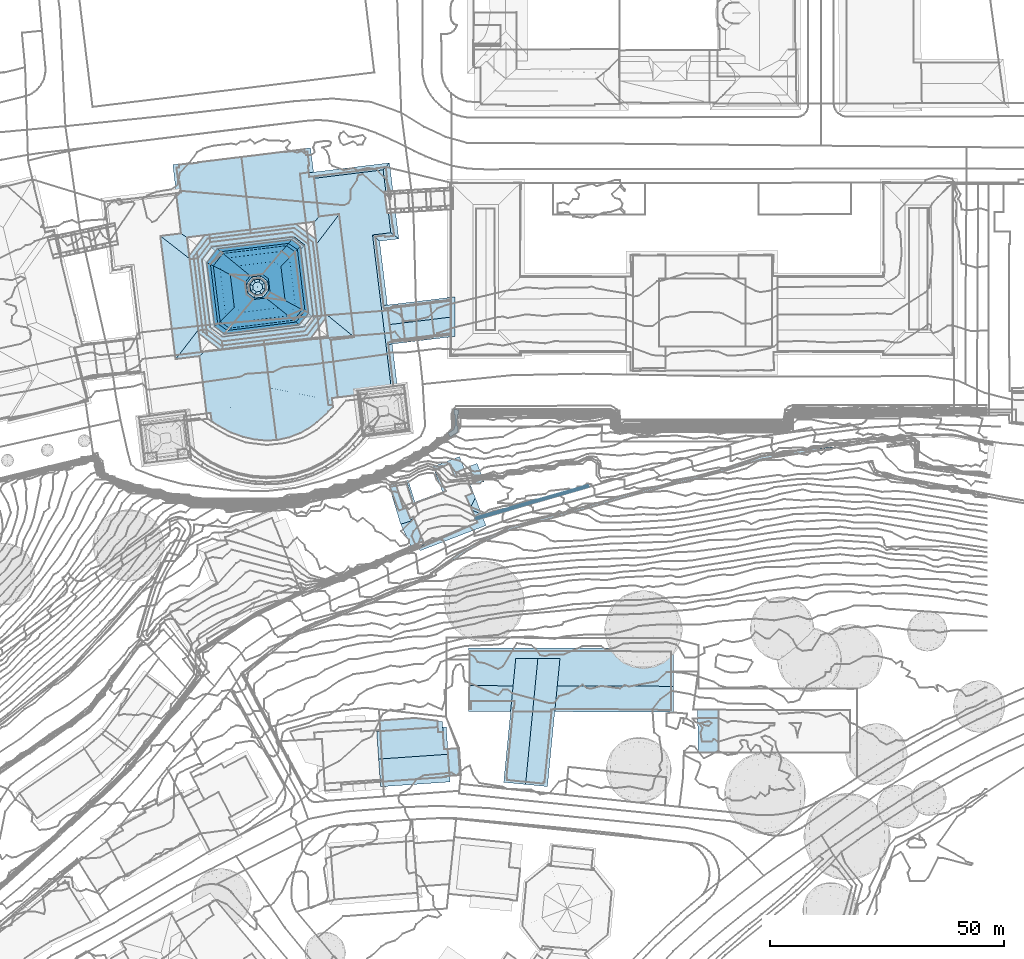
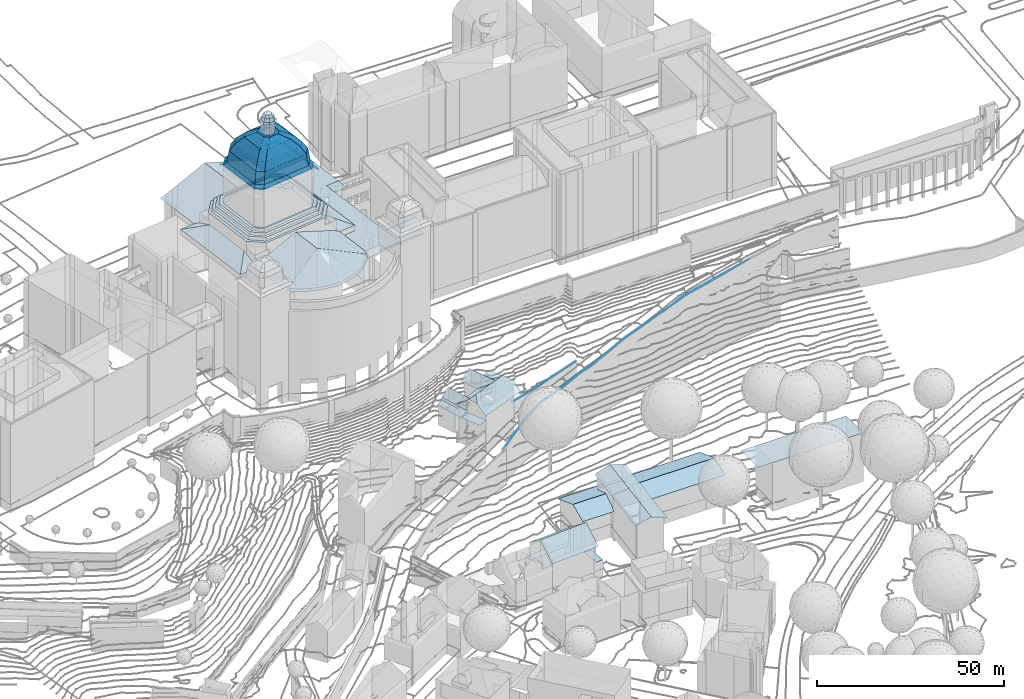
# Not in any storey, part 85 of 477: 22 roofs.
"""IFC4 building model written with IfcOpenShell, lengths in metres."""

from ifc_helpers import new_model, si_unit, frame, origin_with_axes, place, context, subcontext, project, spatial, polygons, element, save


model = new_model("IFC4")

# Units and contexts
model_context = context("Model", 3, precision=1e-05, world=origin_with_axes())
body_context = subcontext(model_context, "Body", "Model", "MODEL_VIEW")
ifc_project = project(units=[si_unit("AREAUNIT", "SQUARE_METRE"), si_unit("LENGTHUNIT", "METRE")], contexts=[model_context])

# Sites, building
site_1_placement = place(None, origin_with_axes())
site_1 = spatial("IfcSite", under=ifc_project, at=site_1_placement, Name="Topoexport Site")
site_2_placement = place(site_1_placement, origin_with_axes())
site_2 = spatial("IfcSite", under=site_1, at=site_2_placement, Name="TPX_BUILDINGS")
building_1_placement = place(site_2_placement, frame((211.8297320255, 101.9383160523, 526.7541), z_axis=(0.0, 0.0, 1.0), x_axis=(1.0, 0.0, 0.0)))
building_1 = spatial("IfcBuilding", under=site_2, at=building_1_placement, Name="Building 18", CompositionType="ELEMENT")

# Roofs
roof_1_placement = place(None, frame((211.8297320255, 101.9383160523, 526.7541), z_axis=(0.0, 0.0, 1.0), x_axis=(1.0, 0.0, 0.0)))
element("IfcRoof", 1, at=roof_1_placement, inside=building_1, Name="Roof 2", context=body_context, shape_type="Tessellation", body=[
    polygons([(362.3150000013, 254.9765000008, 13.5627), (363.2410000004, 254.4589999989, 13.5627), (361.5580000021, 253.379900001, 13.5627), (363.2630000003, 255.6416000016, 13.5627), (363.0109999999, 255.754900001, 13.5627), (361.0960000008, 254.1953000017, 13.5627), (362.5670000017, 255.7236000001, 13.5627), (362.5810000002, 258.2802999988, 13.5627), (363.3300000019, 259.2012000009, 13.5627), (363.313000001, 258.2626999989, 13.5627), (363.1009999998, 258.2637000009, 13.5627), (362.3949999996, 259.2186999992, 13.5627), (362.3780000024, 258.3046999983, 13.5627)], [[[3, 2, 1]], [[5, 1, 4]], [[3, 1, 6]], [[7, 1, 5]], [[7, 5, 8]], [[1, 2, 4]], [[11, 10, 9]], [[11, 8, 5]], [[13, 8, 12]], [[9, 12, 8]], [[8, 11, 9]]]),
])
roof_2_placement = place(None, frame((211.8297320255, 101.9383160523, 526.7541), z_axis=(0.0, 0.0, 1.0), x_axis=(1.0, 0.0, 0.0)))
element("IfcRoof", 2, at=roof_2_placement, inside=building_1, Name="Roof 75", context=body_context, shape_type="Tessellation", body=[
    polygons([(376.1530000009, 238.4004000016, -4.0406), (391.1020000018, 243.1074000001, -3.1507), (391.2110000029, 242.7285000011, -3.1507), (376.0439999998, 238.7793000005, -4.0406), (367.1540000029, 235.7831999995, -4.0406), (366.9900000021, 236.1473999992, -4.0406)], [[[3, 2, 1]], [[5, 1, 4]], [[5, 4, 6]], [[2, 4, 1]]]),
])
roof_3_placement = place(None, frame((211.8297320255, 101.9383160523, 526.7541), z_axis=(0.0, 0.0, 1.0), x_axis=(1.0, 0.0, 0.0)))
element("IfcRoof", 3, at=roof_3_placement, inside=building_1, Name="Roof 84", context=body_context, shape_type="Tessellation", body=[
    polygons([(420.2829999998, 246.1229999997, 0.96), (419.3350000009, 245.8231999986, 0.96), (419.2030000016, 246.2578000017, 0.96), (420.126000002, 246.566399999, 0.96), (398.893000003, 240.4354999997, -2.3187), (393.5760000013, 238.8729999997, -3.2437), (393.450000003, 239.3104999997, -3.2437), (398.756000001, 240.9004000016, -2.3197), (436.8360000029, 249.9111000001, 2.4808), (436.7320000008, 250.5683000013, 2.4808), (449.8500000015, 251.9706999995, 4.0297), (389.7030000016, 237.7754000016, -3.4067), (389.574000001, 238.2430999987, -3.4067), (383.9270000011, 236.6893999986, -4.6596), (384.068, 236.1963, -4.6586), (374.5850000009, 233.6180999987, -5.7495), (374.4420000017, 234.0780999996, -5.7465), (368.0720000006, 231.1268999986, -7.3483), (368.4070000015, 230.8134999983, -7.3163), (364.1030000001, 228.8671999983, -8.2442), (364.5199999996, 228.5967000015, -8.2052), (357.5240000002, 224.2617000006, -9.1681), (405.756000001, 242.2626999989, -0.6429), (405.6400000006, 242.7030999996, -0.6429), (427.9169999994, 249.1737999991, 1.7199), (428.0439999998, 248.5469000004, 1.7179)], [[[3, 2, 1]], [[1, 4, 3]], [[7, 6, 5]], [[5, 8, 7]], [[11, 10, 9]], [[13, 12, 7]], [[6, 7, 12]], [[12, 13, 14]], [[14, 15, 12]], [[15, 17, 16]], [[17, 15, 14]], [[17, 18, 16]], [[16, 18, 19]], [[20, 19, 18]], [[19, 20, 21]], [[22, 21, 20]], [[24, 23, 3]], [[2, 3, 23]], [[4, 1, 25]], [[26, 25, 1]], [[23, 24, 5]], [[8, 5, 24]], [[9, 10, 25]], [[25, 26, 9]]]),
])

# Building
building_2_placement = place(site_2_placement, frame((577.4937320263, 297.2000160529, 499.3887), z_axis=(0.0, 0.0, 1.0), x_axis=(1.0, 0.0, 0.0)))
building_2 = spatial("IfcBuilding", under=site_2, at=building_2_placement, Name="Building 173", CompositionType="ELEMENT")

# Roofs
roof_4_placement = place(None, frame((577.4937320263, 297.2000160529, 499.3887), z_axis=(0.0, 0.0, 1.0), x_axis=(1.0, 0.0, 0.0)))
element("IfcRoof", 4, at=roof_4_placement, inside=building_2, Name="Roof 0", context=body_context, shape_type="Tessellation", body=[
    polygons([(9.4110000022, 0.1532999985, 10.112), (-0.2349999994, -0.509800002, 9.822), (-0.2179999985, 4.996100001, 12.1268), (10.0470000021, 4.9638999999, 12.1268), (9.5709999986, 0.1376999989, 10.106), (9.3420000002, -0.5390999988, 9.822), (10.626000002, 10.8213, 9.9), (-0.193, 13.0830000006, 9.0531), (18.4220000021, 10.7685999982, 9.911), (43.6359999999, 12.9472999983, 9.0532), (43.6110000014, 4.8603999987, 12.1269), (43.1669999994, 4.8612999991, 12.1269), (17.9160000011, 4.9395000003, 12.1268), (43.5940000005, -0.6445000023, 9.8221), (17.5930000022, -0.5644000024, 9.822), (17.5989999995, -0.5019000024, 9.848), (17.4450000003, -0.4873000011, 9.854)], [[[3, 2, 1]], [[1, 4, 3]], [[4, 1, 5]], [[6, 1, 2]], [[3, 4, 7]], [[8, 3, 7]], [[8, 7, 9]], [[12, 11, 10]], [[12, 9, 13]], [[9, 12, 10]], [[9, 10, 8]], [[16, 15, 14]], [[17, 16, 14]], [[14, 11, 12]], [[13, 17, 12]], [[12, 17, 14]]]),
])
roof_5_placement = place(None, frame((577.4937320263, 297.2000160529, 499.3887), z_axis=(0.0, 0.0, 1.0), x_axis=(1.0, 0.0, 0.0)))
element("IfcRoof", 5, at=roof_5_placement, inside=building_2, Name="Roof 1", context=body_context, shape_type="Tessellation", body=[
    polygons([(14.6279999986, 10.7949000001, 16.4804), (11.9970000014, -16.1094000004, 16.4803), (7.319000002, -15.6523000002, 14.9435), (9.0139999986, 1.6796999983, 14.9435), (9.9090000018, 10.8271999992, 14.9435), (18.2879999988, -0.0615000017, 14.9435), (19.3460000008, 10.7626999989, 14.9435), (16.6739999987, -16.566399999, 14.9435)], [[[3, 2, 1]], [[3, 1, 4]], [[4, 1, 5]], [[7, 1, 6]], [[1, 2, 8]], [[1, 8, 6]]]),
])

# Building
building_3_placement = place(site_2_placement, frame((630.7837320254, 287.8680160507, 499.1767), z_axis=(0.0, 0.0, 1.0), x_axis=(1.0, 0.0, 0.0)))
building_3 = spatial("IfcBuilding", under=site_2, at=building_3_placement, Name="Building 174", CompositionType="ELEMENT")

# Roof
roof_6_placement = place(None, frame((630.7837320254, 287.8680160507, 499.1767), z_axis=(0.0, 0.0, 1.0), x_axis=(1.0, 0.0, 0.0)))
element("IfcRoof", 6, at=roof_6_placement, inside=building_3, Name="Roof 0", context=body_context, shape_type="Tessellation", body=[
    polygons([(-4.4780000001, 0.0058000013, 15.9245), (-4.5159999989, 9.1406000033, 15.9245), (0.0, 9.1308000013, 15.9245), (0.0, 0.0, 15.9245), (28.0600000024, 9.0703000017, 15.9245), (28.0730000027, -0.0409999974, 15.9245)], [[[3, 2, 1]], [[3, 1, 4]], [[4, 5, 3]], [[5, 4, 6]]]),
])

# Building
building_4_placement = place(site_2_placement, frame((560.434732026, 345.1033160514, 517.399), z_axis=(0.0, 0.0, 1.0), x_axis=(1.0, 0.0, 0.0)))
building_4 = spatial("IfcBuilding", under=site_2, at=building_4_placement, Name="Building 181", CompositionType="ELEMENT")

# Roofs
roof_7_placement = place(None, frame((560.434732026, 345.1033160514, 517.399), z_axis=(0.0, 0.0, 1.0), x_axis=(1.0, 0.0, 0.0)))
element("IfcRoof", 7, at=roof_7_placement, inside=building_4, Name="Roof 0", context=body_context, shape_type="Tessellation", body=[
    polygons([(4.8540000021, -13.8827999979, 6.5474), (2.7160000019, -8.3085999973, 6.5544), (6.7430000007, -10.8007999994, 6.6113), (2.7050000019, -8.2694999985, 6.5544), (5.125, -7.186499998, 6.6114), (2.4020000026, -8.4043000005, 6.5484), (7.5769999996, -12.6649999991, 6.6113), (7.4589999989, -12.6279000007, 6.6093), (7.5450000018, -12.5927000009, 6.6113), (2.1620000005, 0.3965000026, 8.0182), (1.3770000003, 0.2520000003, 7.5223), (2.1079999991, 0.5713, 8.0182), (-0.2509999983, 0.1455000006, 6.5294), (3.0350000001, -5.1512999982, 7.5223), (3.5920000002, -4.9266999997, 7.8962), (4.4550000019, -7.0673999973, 8.0182), (2.2320000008, -2.5331999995, 7.5233), (4.6480000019, -7.7168000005, 8.0182), (2.3720000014, -8.4140000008, 6.5294)], [[[3, 2, 1]], [[2, 5, 4]], [[5, 2, 3]], [[2, 6, 1]], [[8, 1, 7]], [[1, 8, 3]], [[7, 9, 8]], [[12, 11, 10]], [[11, 12, 13]], [[16, 15, 14]], [[11, 13, 17]], [[14, 17, 13]], [[14, 13, 6]], [[16, 14, 18]], [[14, 6, 18]], [[6, 13, 19]]]),
])
roof_8_placement = place(None, frame((560.434732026, 345.1033160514, 517.399), z_axis=(0.0, 0.0, 1.0), x_axis=(1.0, 0.0, 0.0)))
element("IfcRoof", 8, at=roof_8_placement, inside=building_4, Name="Roof 1", context=body_context, shape_type="Tessellation", body=[
    polygons([(14.9550000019, 6.0401000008, 8.7212), (12.5839999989, 4.3496000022, 11.1699), (12.3229999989, 5.0313000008, 11.1699), (15.9299999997, 3.4951000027, 8.7212), (16.9849999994, 0.7432000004, 8.7212), (16.2719999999, -2.4794999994, 10.302), (15.618999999, -3.5682999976, 11.1699), (17.9710000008, -1.8290999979, 10.302), (11.5520000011, -1.5975999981, 8.8591), (14.2540000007, -3.253899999, 10.302), (9.2630000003, 3.8594000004, 8.7212), (11.2930000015, -1.4384999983, 8.7212), (5.5340000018, -6.5956999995, 10.302), (3.8850000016, -7.2274999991, 10.302), (3.2430000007, -4.5233999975, 8.7212), (2.8990000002, -4.6552999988, 8.7212), (6.2360000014, -9.5097000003, 13.3367), (4.4340000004, -8.6611000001, 12.0058), (6.1539999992, -9.2997999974, 13.3487), (6.2970000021, -9.3524999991, 13.4607), (5.4970000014, -11.4335999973, 11.8199), (17.6810000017, -5.4452999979, 13.0397), (17.1110000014, -5.2089999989, 13.4607), (6.5140000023, -14.0878999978, 9.0051), (19.6750000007, -6.2753999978, 11.5649), (20.6000000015, -8.6884999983, 9.0051), (18.3370000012, -2.7841999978, 11.4379), (17.3570000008, -4.7225999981, 13.0557), (6.2300000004, -6.3290999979, 10.302), (6.1380000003, -6.0282999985, 10.122), (5.0749999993, -4.1611000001, 8.9031), (4.9780000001, -3.8583999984, 8.7212), (5.512000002, -3.9882999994, 8.9001), (17.2880000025, -0.0469000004, 8.7212), (17.2180000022, 0.1367000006, 8.7212), (20.2050000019, 0.6689999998, 8.5452), (17.1099999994, 0.4169999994, 8.7212), (18.7070000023, 4.5771999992, 8.5452), (1.3770000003, 0.2520000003, 8.3382), (1.3229999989, 0.4297000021, 8.3382), (3.0560000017, -4.5956999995, 8.5212), (2.8990000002, -4.6552999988, 8.3542), (3.0350000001, -5.1512999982, 8.3382), (3.0820000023, -5.1327999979, 8.3892), (3.6090000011, 0.8428000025, 10.642), (3.4739999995, -4.9745999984, 8.8102), (3.8920000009, -7.9472000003, 8.3382), (4.4719999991, -7.1083999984, 9.1381), (5.438000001, -7.4745999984, 9.953), (3.6900000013, -5.1688999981, 8.9591), (5.9420000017, -6.7675999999, 10.642), (5.1830000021, -6.8231999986, 9.9), (5.512000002, -3.9882999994, 10.322), (4.0089999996, 0.9141000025, 10.322), (6.2349999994, -6.3456999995, 10.322), (1.9649999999, -1.6649999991, 8.2882), (1.9649999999, -1.6649999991, 8.1882), (1.3770000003, 0.2520000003, 8.1382), (1.3229999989, 0.4297000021, 8.1382)], [[[3, 2, 1]], [[4, 1, 2]], [[2, 5, 4]], [[6, 5, 2]], [[6, 2, 7]], [[6, 8, 5]], [[10, 2, 9]], [[2, 10, 7]], [[2, 3, 11]], [[12, 9, 11]], [[11, 9, 2]], [[15, 14, 13]], [[14, 15, 16]], [[19, 18, 17]], [[17, 20, 19]], [[21, 17, 18]], [[17, 21, 22]], [[23, 20, 17]], [[22, 21, 24]], [[26, 25, 22]], [[23, 17, 22]], [[22, 24, 26]], [[22, 25, 27]], [[22, 28, 23]], [[28, 22, 27]], [[30, 29, 10]], [[33, 32, 31]], [[30, 9, 33]], [[9, 30, 10]], [[9, 12, 33]], [[33, 12, 32]], [[36, 35, 34]], [[35, 36, 37]], [[36, 5, 37]], [[38, 5, 36]], [[4, 5, 38]], [[15, 40, 39]], [[39, 42, 41]], [[44, 42, 43]], [[39, 43, 42]], [[40, 15, 45]], [[13, 45, 15]], [[39, 41, 15]], [[44, 47, 46]], [[47, 44, 43]], [[47, 48, 46]], [[48, 47, 49]], [[48, 50, 46]], [[45, 13, 51]], [[52, 48, 49]], [[54, 51, 53]], [[51, 54, 45]], [[51, 55, 53]], [[51, 18, 7]], [[18, 19, 28]], [[55, 51, 10]], [[18, 51, 14]], [[13, 14, 51]], [[23, 19, 20]], [[18, 28, 7]], [[7, 10, 51]], [[28, 27, 7]], [[7, 27, 8]], [[29, 55, 10]], [[8, 6, 7]], [[28, 19, 23]], [[39, 40, 56]], [[59, 58, 57]]]),
])

# Building
building_5_placement = place(site_2_placement, frame((558.3647320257, 294.6795160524, 500.6956), z_axis=(0.0, 0.0, 1.0), x_axis=(1.0, 0.0, 0.0)))
building_5 = spatial("IfcBuilding", under=site_2, at=building_5_placement, Name="Building 182", CompositionType="ELEMENT")

# Roofs
roof_9_placement = place(None, frame((558.3647320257, 294.6795160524, 500.6956), z_axis=(0.0, 0.0, 1.0), x_axis=(1.0, 0.0, 0.0)))
element("IfcRoof", 9, at=roof_9_placement, inside=building_5, Name="Roof 0", context=body_context, shape_type="Tessellation", body=[
    polygons([(0.1280000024, -2.2402000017, 11.0869), (-0.2630000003, -8.1689999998, 15.3915), (-0.6689999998, -2.2949000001, 11.0969), (0.4480000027, -7.8300999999, 15.1715), (12.4130000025, -1.3887000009, 10.9349), (14.1900000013, -1.2655999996, 10.9129), (12.4620000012, -2.0907999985, 11.4478), (0.4640000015, -8.1191000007, 15.3915), (14.5970000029, -7.1405999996, 15.3914), (14.5219999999, -6.0546999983, 14.5635), (12.2750000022, -12.1807000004, 11.7138), (14.9180000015, -11.7870999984, 11.8728), (15.006000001, -13.0546999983, 10.9129), (0.4810000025, -8.4072000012, 15.1735), (0.1469999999, -14.0839999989, 11.0969)], [[[3, 2, 1]], [[1, 2, 4]], [[7, 6, 5]], [[1, 4, 5]], [[5, 4, 7]], [[2, 8, 4]], [[4, 8, 9]], [[10, 7, 4]], [[6, 7, 10]], [[10, 4, 9]], [[12, 9, 11]], [[13, 12, 11]], [[8, 2, 14]], [[11, 9, 14]], [[14, 9, 8]], [[2, 15, 14]], [[11, 14, 15]], [[13, 11, 15]]]),
])
roof_10_placement = place(None, frame((558.3647320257, 294.6795160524, 500.6956), z_axis=(0.0, 0.0, 1.0), x_axis=(1.0, 0.0, 0.0)))
element("IfcRoof", 10, at=roof_10_placement, inside=building_5, Name="Roof 1", context=body_context, shape_type="Tessellation", body=[
    polygons([(14.5219999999, -6.0546999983, 4.9954), (17.1530000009, -11.6328000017, 4.9954), (14.9180000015, -11.7870999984, 4.9954), (16.756000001, -5.8993999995, 4.9954)], [[[3, 2, 1]], [[4, 1, 2]]]),
])
roof_11_placement = place(None, frame((558.3647320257, 294.6795160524, 500.6956), z_axis=(0.0, 0.0, 1.0), x_axis=(1.0, 0.0, 0.0)))
element("IfcRoof", 11, at=roof_11_placement, inside=building_5, Name="Roof 2", context=body_context, shape_type="Tessellation", body=[
    polygons([(12.4130000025, -1.3887000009, 4.9954), (13.4970000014, -2.4072000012, 4.9954), (12.4890000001, -2.4765999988, 4.9954), (7.438000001, 0.5722999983, 4.9955), (0.1280000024, -2.2402000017, 4.9955), (0.0, 0.0, 4.9955), (13.3420000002, -0.1719000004, 4.9954)], [[[3, 2, 1]], [[6, 5, 4]], [[4, 5, 1]], [[1, 7, 4]], [[1, 2, 7]]]),
])

# Building
building_6_placement = place(site_2_placement, frame((516.5377320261, 359.7107160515, 536.6602), z_axis=(0.0, 0.0, 1.0), x_axis=(1.0, 0.0, 0.0)))
building_6 = spatial("IfcBuilding", under=site_2, at=building_6_placement, Name="Building 193", CompositionType="ELEMENT")

# Roofs
roof_12_placement = place(None, frame((516.5377320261, 359.7107160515, 536.6602), z_axis=(0.0, 0.0, 1.0), x_axis=(1.0, 0.0, 0.0)))
element("IfcRoof", 12, at=roof_12_placement, inside=building_6, Name="Roof 4", context=body_context, shape_type="Tessellation", body=[
    polygons([(4.8489999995, 32.8896999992, 38.1686), (6.5350000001, 19.1534000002, 38.1684), (5.631000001, 19.0303000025, 38.1684), (8.2750000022, 17.0118000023, 38.1684), (8.5899999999, 17.5850000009, 38.1684), (24.6799999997, 19.5595999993, 38.1684), (5.9479999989, 36.2138999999, 38.1686), (3.8579999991, 33.4747000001, 38.1686), (23.0800000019, 38.317400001, 38.1686), (7.0850000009, 35.8203999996, 38.1686), (26.6130000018, 22.0928000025, 38.1684), (25.626000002, 19.1416000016, 38.1684), (25.7950000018, 36.2442000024, 38.1685), (27.5800000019, 21.7032000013, 38.1684), (22.9670000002, 37.7686000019, 38.1686), (24.8660000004, 36.3203999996, 38.1685)], [[[3, 2, 1]], [[2, 3, 4]], [[4, 5, 2]], [[5, 4, 6]], [[8, 1, 7]], [[1, 8, 3]], [[7, 10, 9]], [[10, 7, 1]], [[6, 12, 11]], [[12, 6, 4]], [[11, 14, 13]], [[14, 11, 12]], [[15, 9, 10]], [[9, 15, 16]], [[16, 13, 9]], [[13, 16, 11]]]),
])
roof_13_placement = place(None, frame((516.5377320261, 359.7107160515, 536.6602), z_axis=(0.0, 0.0, 1.0), x_axis=(1.0, 0.0, 0.0)))
element("IfcRoof", 13, at=roof_13_placement, inside=building_6, Name="Roof 14", context=body_context, shape_type="Tessellation", body=[
    polygons([(56.9710000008, 17.7344000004, 20.867), (57.9140000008, 21.3340000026, 22.0059), (57.8960000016, 17.8456999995, 20.867), (44.3670000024, 16.2041000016, 20.867), (43.9470000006, 19.6387000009, 22.0059), (56.9820000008, 24.6612000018, 20.867), (57.9310000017, 24.7763999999, 20.867), (43.5329999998, 23.0293000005, 20.867)], [[[3, 2, 1]], [[1, 5, 4]], [[5, 1, 2]], [[7, 6, 2]], [[2, 8, 5]], [[8, 2, 6]]]),
])
roof_14_placement = place(None, frame((516.5377320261, 359.7107160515, 536.6602), z_axis=(0.0, 0.0, 1.0), x_axis=(1.0, 0.0, 0.0)))
element("IfcRoof", 14, at=roof_14_placement, inside=building_6, Name="Roof 15", context=body_context, shape_type="Tessellation", body=[
    polygons([(42.693, 23.192400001, 19.1572), (43.5219999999, 23.1152999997, 19.1572), (42.7280000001, 23.0206000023, 19.1572), (42.6409999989, 23.5381000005, 19.1572), (42.620000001, 23.7120000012, 19.1572), (42.6649999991, 23.3652999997, 19.1572), (56.9820000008, 24.6612000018, 19.1572), (43.6130000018, 15.7763999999, 19.1572), (44.4079999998, 15.8731000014, 19.1572), (43.6620000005, 15.375, 19.1572), (56.9710000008, 17.7344000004, 19.1572), (44.3670000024, 16.2041000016, 19.1572), (57.8929999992, 17.1016000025, 19.1572), (56.9739999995, 19.4659000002, 19.1572), (57.9340000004, 25.5703999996, 19.1572), (43.5329999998, 23.0293000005, 19.1572)], [[[3, 2, 1]], [[5, 4, 2]], [[1, 2, 6]], [[4, 6, 2]], [[5, 2, 7]], [[10, 9, 8]], [[12, 9, 11]], [[10, 13, 9]], [[14, 11, 13]], [[7, 14, 13]], [[15, 7, 13]], [[15, 5, 7]], [[16, 7, 2]], [[11, 9, 13]]]),
])
roof_15_placement = place(None, frame((516.5377320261, 359.7107160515, 536.6602), z_axis=(0.0, 0.0, 1.0), x_axis=(1.0, 0.0, 0.0)))
element("IfcRoof", 15, at=roof_15_placement, inside=building_6, Name="Roof 32", context=body_context, shape_type="Tessellation", body=[
    polygons([(33.1590000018, 43.2109999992, 27.8075), (28.8269999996, 42.6788000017, 27.8075), (27.8200000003, 50.884800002, 27.8076), (42.5289999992, 52.6845999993, 27.8076), (44.1720000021, 39.2578999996, 27.8075), (40.254999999, 38.7784000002, 27.8075), (36.3880000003, 16.9072999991, 27.8073), (44.2270000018, 6.3330000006, 27.8073), (31.3709999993, 16.2910999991, 27.8073), (37.0379999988, 5.4405000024, 27.8073), (32.875, 4.0362000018, 27.8073), (37.1460000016, 4.5595999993, 27.8073), (43.887000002, 54.188500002, 25.8257), (45.875, 37.9532000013, 25.8257), (44.9279999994, 38.6788000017, 26.9276), (43.0219999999, 53.2314999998, 27.0886), (40.9059999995, 38.2061000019, 26.9536), (41.7670000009, 37.4502000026, 25.8257), (43.5219999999, 23.1152999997, 25.8255), (45.5560000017, 6.4981000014, 25.8255), (44.4079999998, 15.8731000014, 25.8255), (26.7329999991, 51.5362000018, 26.6457), (26.6680000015, 52.0811000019, 25.8258), (27.7730000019, 51.2646999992, 27.2356), (26.7800000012, 51.1425999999, 27.2356)], [[[3, 2, 1]], [[3, 1, 4]], [[4, 6, 5]], [[4, 1, 6]], [[8, 6, 7]], [[1, 7, 6]], [[11, 10, 9]], [[11, 12, 10]], [[8, 7, 10]], [[10, 7, 9]], [[15, 14, 13]], [[5, 15, 16]], [[5, 16, 4]], [[16, 15, 13]], [[5, 6, 17]], [[15, 17, 18]], [[17, 15, 5]], [[15, 18, 14]], [[17, 19, 18]], [[19, 17, 6]], [[21, 8, 20]], [[8, 21, 19]], [[8, 19, 6]], [[13, 23, 22]], [[25, 24, 22]], [[24, 3, 4]], [[16, 22, 24]], [[13, 22, 16]], [[24, 4, 16]]]),
])
roof_16_placement = place(None, frame((516.5377320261, 359.7107160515, 536.6602), z_axis=(0.0, 0.0, 1.0), x_axis=(1.0, 0.0, 0.0)))
element("IfcRoof", 16, at=roof_16_placement, inside=building_6, Name="Roof 33", context=body_context, shape_type="Tessellation", body=[
    polygons([(29.4820000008, 21.4659000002, 35.4726), (27.5560000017, 37.1543000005, 35.4728), (28.2190000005, 37.7872000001, 35.4728), (23.5199999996, 40.2344000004, 35.4728), (23.9090000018, 41.0762000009, 35.4728), (5.0210000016, 37.9629000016, 35.4728), (26.3460000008, 17.3575000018, 35.4726), (30.2879999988, 20.9327000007, 35.4726), (7.5659999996, 14.2666000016, 35.4726), (27.0240000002, 16.6563000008, 35.4726), (1.1339999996, 34.3720999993, 35.4728), (4.425999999, 38.6845999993, 35.4728), (3.1920000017, 17.6044999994, 35.4726), (2.0830000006, 34.1143000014, 35.4728), (7.9160000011, 15.0938000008, 35.4726), (4.0560000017, 18.0401000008, 35.4726)], [[[3, 2, 1]], [[2, 3, 4]], [[5, 4, 3]], [[4, 5, 6]], [[8, 1, 7]], [[1, 8, 3]], [[10, 7, 9]], [[7, 10, 8]], [[6, 12, 11]], [[12, 6, 5]], [[14, 11, 13]], [[11, 14, 6]], [[15, 9, 7]], [[9, 15, 16]], [[16, 13, 9]], [[13, 16, 14]]]),
])
roof_17_placement = place(None, frame((516.5377320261, 359.7107160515, 536.6602), z_axis=(0.0, 0.0, 1.0), x_axis=(1.0, 0.0, 0.0)))
element("IfcRoof", 17, at=roof_17_placement, inside=building_6, Name="Roof 34", context=body_context, shape_type="Tessellation", body=[
    polygons([(24.6799999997, 19.5595999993, 50.4772), (23.9110000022, 20.1739000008, 51.3721), (26.6130000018, 22.0928000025, 50.4772), (25.8280000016, 22.5108000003, 51.3721), (21.5820000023, 24.7675999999, 59.5223), (23.7760000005, 23.6006000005, 57.3355), (20.1339999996, 23.1933999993, 59.5223), (22.2589999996, 21.4942000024, 57.3355), (17.4979999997, 25.2998000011, 61.0132), (12.4719999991, 22.2520000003, 59.5223), (14.7230000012, 24.9600000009, 61.0132), (18.387000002, 26.4649000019, 61.0132), (22.506000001, 33.9414000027, 57.3357), (20.876000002, 35.2813000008, 57.3357), (23.7060000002, 35.1504000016, 55.1489), (20.682, 32.1016000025, 59.5225), (19.0399999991, 33.0956999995, 59.5225), (18.0240000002, 29.4229000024, 61.0132), (16.6539999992, 25.9160999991, 61.0132), (17.6170000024, 27.0976999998, 61.0132), (17.4609999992, 28.6143000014, 61.0132), (13.3859999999, 25.9794999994, 61.0132), (15.1380000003, 25.7608000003, 61.0132), (13.0560000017, 28.6709000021, 61.0132), (13.9560000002, 26.7226999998, 61.0132), (16.2789999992, 29.5771999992, 61.0132), (14.7630000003, 29.4209000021, 61.0132), (16.762000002, 30.3858000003, 61.0132), (13.800999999, 28.2393000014, 61.0132), (14.1170000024, 30.0606000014, 61.0132), (9.8680000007, 30.3095999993, 59.5224), (7.6790000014, 31.4345999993, 57.3357), (11.5360000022, 32.1748000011, 59.5225), (9.4550000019, 33.8790000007, 57.3357), (10.6570000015, 20.0703999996, 57.3355), (8.8980000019, 21.5078999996, 57.3355), (10.7250000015, 23.3282000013, 59.5223), (7.1889999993, 19.8047000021, 51.3721), (9.2459999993, 18.375, 51.3721), (6.5350000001, 19.1534000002, 50.4772), (8.5899999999, 17.5850000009, 50.4772), (5.6319999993, 32.4873999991, 51.3723), (4.8489999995, 32.8896999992, 50.4774), (7.8379999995, 35.2032000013, 51.3723), (7.0850000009, 35.8203999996, 50.4774), (24.2140000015, 35.6612000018, 51.3723), (22.3029999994, 36.9785999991, 51.3723), (24.8660000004, 36.3203999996, 50.4774), (22.9670000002, 37.7686000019, 50.4774), (23.436999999, 20.5527999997, 55.1487), (9.6510000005, 18.8614000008, 55.1488), (25.2170000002, 22.8350000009, 55.1487), (21.8940000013, 36.4922000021, 55.1489), (6.2410000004, 32.1739000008, 55.1489), (8.3020000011, 34.8243000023, 55.1489), (7.6970000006, 20.3106000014, 55.1488), (23.9110000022, 20.1739000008, 51.1721), (9.6510000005, 18.8614000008, 54.9488), (9.2459999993, 18.375, 51.1721), (23.436999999, 20.5527999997, 54.9488), (25.8280000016, 22.5108000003, 51.1721), (25.2170000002, 22.8350000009, 54.9488), (23.7060000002, 35.1504000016, 54.9489), (24.2140000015, 35.6612000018, 51.1723), (7.6970000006, 20.3106000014, 54.9488), (6.2410000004, 32.1739000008, 54.949), (5.6319999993, 32.4873000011, 51.1723), (7.1889999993, 19.8047000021, 51.1721), (7.8379999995, 35.2032000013, 51.1723), (21.8940000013, 36.4922000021, 54.9489), (22.3029999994, 36.9785999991, 51.1723), (8.3020000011, 34.8243000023, 54.949)], [[[3, 2, 1]], [[2, 3, 4]], [[7, 6, 5]], [[6, 7, 8]], [[5, 9, 7]], [[11, 10, 7]], [[7, 9, 11]], [[9, 5, 12]], [[15, 14, 13]], [[13, 17, 16]], [[17, 13, 14]], [[12, 5, 18]], [[16, 18, 5]], [[9, 19, 11]], [[19, 9, 20]], [[12, 20, 9]], [[20, 12, 21]], [[11, 23, 22]], [[23, 11, 19]], [[22, 25, 24]], [[25, 22, 23]], [[21, 18, 26]], [[18, 21, 12]], [[26, 28, 27]], [[28, 26, 18]], [[29, 24, 25]], [[24, 29, 30]], [[27, 30, 29]], [[30, 27, 28]], [[30, 31, 24]], [[16, 28, 18]], [[28, 16, 17]], [[33, 32, 31]], [[32, 33, 34]], [[31, 30, 33]], [[28, 17, 33]], [[33, 30, 28]], [[10, 36, 35]], [[36, 10, 37]], [[11, 37, 10]], [[37, 11, 22]], [[24, 31, 22]], [[37, 22, 31]], [[40, 39, 38]], [[39, 40, 41]], [[44, 43, 42]], [[43, 44, 45]], [[48, 47, 46]], [[47, 48, 49]], [[39, 41, 1]], [[1, 2, 39]], [[35, 51, 50]], [[50, 8, 35]], [[10, 35, 8]], [[8, 7, 10]], [[52, 8, 50]], [[4, 3, 46]], [[48, 46, 3]], [[8, 52, 6]], [[5, 6, 16]], [[13, 16, 6]], [[14, 15, 53]], [[34, 54, 32]], [[54, 34, 55]], [[14, 53, 55]], [[55, 34, 14]], [[17, 14, 34]], [[34, 33, 17]], [[56, 35, 36]], [[32, 54, 36]], [[56, 36, 54]], [[31, 32, 37]], [[36, 37, 32]], [[42, 43, 38]], [[40, 38, 43]], [[35, 56, 51]], [[47, 49, 45]], [[45, 44, 47]], [[6, 52, 13]], [[15, 13, 52]], [[51, 39, 2]], [[2, 50, 51]], [[59, 58, 57]], [[60, 57, 58]], [[4, 50, 2]], [[60, 61, 57]], [[50, 4, 52]], [[61, 60, 62]], [[52, 4, 15]], [[46, 15, 4]], [[61, 62, 63]], [[63, 64, 61]], [[54, 42, 56]], [[38, 56, 42]], [[67, 66, 65]], [[65, 68, 67]], [[38, 51, 56]], [[58, 68, 65]], [[51, 38, 39]], [[68, 58, 59]], [[53, 47, 44]], [[44, 55, 53]], [[71, 70, 69]], [[72, 69, 70]], [[42, 55, 44]], [[72, 67, 69]], [[55, 42, 54]], [[67, 72, 66]], [[53, 46, 47]], [[64, 70, 71]], [[46, 53, 15]], [[70, 64, 63]]]),
])
roof_18_placement = place(None, frame((516.5377320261, 359.7107160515, 536.6602), z_axis=(0.0, 0.0, 1.0), x_axis=(1.0, 0.0, 0.0)))
element("IfcRoof", 18, at=roof_18_placement, inside=building_6, Name="Roof 35", context=body_context, shape_type="Tessellation", body=[
    polygons([(29.4820000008, 21.4659000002, 36.5785), (26.6550000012, 36.692400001, 36.5787), (27.5560000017, 37.1543000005, 36.5787), (23.5199999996, 40.2344000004, 36.5787), (23.1559999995, 39.3623000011, 36.5787), (5.6180000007, 37.2090000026, 36.5787), (25.8229999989, 18.1729000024, 36.5785), (28.4979999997, 21.6777999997, 36.5785), (7.9160000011, 15.0938000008, 36.5785), (26.3460000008, 17.3575000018, 36.5785), (2.0830000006, 34.1143000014, 36.5787), (5.0210000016, 37.9629000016, 36.5787), (4.0560000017, 18.0401000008, 36.5785), (2.9640000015, 33.7325000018, 36.5787), (8.1460000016, 16.0030000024, 36.5785), (4.8289999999, 18.5351999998, 36.5785)], [[[3, 2, 1]], [[2, 3, 4]], [[4, 5, 2]], [[5, 4, 6]], [[1, 8, 7]], [[8, 1, 2]], [[10, 7, 9]], [[7, 10, 1]], [[6, 12, 11]], [[12, 6, 4]], [[14, 11, 13]], [[11, 14, 6]], [[15, 9, 7]], [[9, 15, 13]], [[16, 13, 15]], [[13, 16, 14]]]),
])
roof_19_placement = place(None, frame((516.5377320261, 359.7107160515, 536.6602), z_axis=(0.0, 0.0, 1.0), x_axis=(1.0, 0.0, 0.0)))
element("IfcRoof", 19, at=roof_19_placement, inside=building_6, Name="Roof 36", context=body_context, shape_type="Tessellation", body=[
    polygons([(2.9640000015, 33.7325000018, 37.3736), (5.631000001, 19.0303000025, 37.3735), (4.8289999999, 18.5351999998, 37.3735), (8.2750000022, 17.0118000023, 37.3735), (8.1460000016, 16.0030000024, 37.3735), (25.8229999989, 18.1729000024, 37.3734), (5.9479999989, 36.2138999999, 37.3736), (3.8579999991, 33.4747000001, 37.3736), (23.1559999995, 39.3623000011, 37.3736), (5.6180000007, 37.2090000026, 37.3736), (28.4979999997, 21.6777999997, 37.3734), (25.626000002, 19.1416000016, 37.3734), (25.7950000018, 36.2442000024, 37.3736), (27.5800000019, 21.7032000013, 37.3734), (23.0800000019, 38.317400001, 37.3736), (26.6550000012, 36.692400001, 37.3736)], [[[3, 2, 1]], [[2, 3, 4]], [[5, 4, 3]], [[4, 5, 6]], [[1, 8, 7]], [[8, 1, 2]], [[10, 7, 9]], [[7, 10, 1]], [[12, 6, 11]], [[6, 12, 4]], [[14, 11, 13]], [[11, 14, 12]], [[15, 9, 7]], [[9, 15, 16]], [[13, 16, 15]], [[16, 13, 11]]]),
])
roof_20_placement = place(None, frame((516.5377320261, 359.7107160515, 536.6602), z_axis=(0.0, 0.0, 1.0), x_axis=(1.0, 0.0, 0.0)))
element("IfcRoof", 20, at=roof_20_placement, inside=building_6, Name="Roof 37", context=body_context, shape_type="Tessellation", body=[
    polygons([(14.5300000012, 29.8535999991, 64.6259), (16.4200000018, 30.0479000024, 64.6259), (16.2789999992, 29.5771999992, 65.0228), (14.7630000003, 29.4209000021, 65.0228), (13.3300000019, 28.379900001, 64.6259), (13.800999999, 28.2393000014, 65.0228), (13.5230000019, 26.4902999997, 64.6259), (13.9560000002, 26.7226999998, 65.0228), (14.9970000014, 25.2901000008, 64.6259), (15.1380000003, 25.7608000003, 65.0228), (16.8880000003, 25.4834000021, 64.6258), (16.6539999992, 25.9160999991, 65.0228), (17.6170000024, 27.0976999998, 65.0228), (18.0879999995, 26.9571000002, 64.6258), (17.8940000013, 28.8476999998, 64.6259), (17.4609999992, 28.6143000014, 65.0228), (16.0230000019, 28.7178000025, 66.9506), (16.6730000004, 28.188500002, 66.9506), (15.7089999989, 27.6689999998, 67.1986), (16.7580000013, 27.3544999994, 66.9506), (16.2290000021, 26.7041000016, 66.9506), (15.3949999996, 26.6192000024, 66.9506), (15.188000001, 28.6328999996, 66.9506), (14.6590000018, 27.9834000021, 66.9506), (14.743999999, 27.1484999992, 66.9506), (17.2109999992, 28.4785999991, 66.1557), (16.1979999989, 29.3038000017, 66.1557), (17.3440000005, 27.1788000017, 66.1557), (16.5190000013, 26.1660999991, 66.1557), (15.2190000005, 26.0331999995, 66.1557), (14.0729999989, 28.1581999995, 66.1557), (14.8980000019, 29.1709000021, 66.1557), (14.2060000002, 26.8584000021, 66.1557)], [[[3, 2, 1]], [[1, 4, 3]], [[4, 1, 5]], [[5, 6, 4]], [[6, 5, 7]], [[7, 8, 6]], [[8, 7, 9]], [[9, 10, 8]], [[10, 9, 11]], [[11, 12, 10]], [[12, 11, 13]], [[14, 13, 11]], [[13, 14, 15]], [[15, 16, 13]], [[16, 15, 3]], [[2, 3, 15]], [[19, 18, 17]], [[18, 19, 20]], [[19, 21, 20]], [[21, 19, 22]], [[24, 19, 23]], [[23, 19, 17]], [[19, 25, 22]], [[25, 19, 24]], [[18, 26, 17]], [[27, 17, 26]], [[20, 28, 26]], [[26, 18, 20]], [[22, 30, 29]], [[29, 21, 22]], [[21, 29, 28]], [[28, 20, 21]], [[23, 32, 31]], [[31, 24, 23]], [[17, 27, 23]], [[32, 23, 27]], [[25, 33, 30]], [[30, 22, 25]], [[24, 31, 25]], [[33, 25, 31]], [[33, 8, 30]], [[10, 30, 8]], [[30, 10, 29]], [[12, 29, 10]], [[32, 4, 31]], [[6, 31, 4]], [[31, 6, 33]], [[8, 33, 6]], [[26, 16, 27]], [[3, 27, 16]], [[27, 3, 32]], [[4, 32, 3]], [[29, 12, 28]], [[13, 28, 12]], [[28, 13, 26]], [[16, 26, 13]]]),
])
roof_21_placement = place(None, frame((516.5377320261, 359.7107160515, 536.6602), z_axis=(0.0, 0.0, 1.0), x_axis=(1.0, 0.0, 0.0)))
element("IfcRoof", 21, at=roof_21_placement, inside=building_6, Name="Roof 38", context=body_context, shape_type="Tessellation", body=[
    polygons([(7.0850000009, 35.8203999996, 48.5696), (5.675999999, 36.1807000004, 48.2376), (22.9670000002, 37.7686000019, 48.5696), (23.5190000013, 38.371100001, 48.2376), (23.0140000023, 37.7334000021, 48.5956), (6.7360000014, 35.3632999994, 48.8275), (23.5190000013, 38.371100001, 48.2676), (25.7420000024, 36.6748999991, 48.2676), (24.8660000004, 36.3203999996, 48.6195), (24.9460000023, 35.6680000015, 48.8225), (23.0140000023, 37.7334000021, 48.6196), (27.6500000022, 21.134800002, 48.2374), (26.5370000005, 21.9942000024, 48.8563), (26.6130000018, 22.0928000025, 48.8024), (24.9460000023, 35.6680000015, 48.8025), (25.7420000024, 36.6748999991, 48.2376)], [[[3, 2, 1]], [[2, 3, 4]], [[3, 5, 4]], [[1, 2, 6]], [[9, 8, 7]], [[8, 9, 10]], [[9, 7, 11]], [[14, 13, 12]], [[14, 16, 15]], [[16, 14, 12]]]),
])
roof_22_placement = place(None, frame((516.5377320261, 359.7107160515, 536.6602), z_axis=(0.0, 0.0, 1.0), x_axis=(1.0, 0.0, 0.0)))
element("IfcRoof", 22, at=roof_22_placement, inside=building_6, Name="Roof 40", context=body_context, shape_type="Tessellation", body=[
    polygons([(24.8040000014, -3.5995000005, 29.5462), (18.3599999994, 6.0967000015, 34.9137), (26.4290000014, -2.7039999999, 29.5462), (31.7030000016, 3.3808999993, 30.0181), (31.8709999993, 2.0069000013, 29.5462), (30.8469999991, 0.9882999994, 29.5462), (28.4860000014, -1.2010999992, 29.5462), (22.443, -4.4969999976, 29.5462), (19.8020000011, -5.1034999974, 29.5462), (28.8269999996, 42.6788000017, 29.5464), (28.3289999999, 36.8720999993, 31.8811), (27.7630000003, 41.4785999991, 29.9803), (33.1590000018, 43.2109999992, 29.5464), (12.2820000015, 55.5919000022, 34.9139), (27.0199999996, 57.4013999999, 29.5464), (27.7730000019, 51.2646999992, 29.5464), (14.2109999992, 39.8858000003, 34.9139), (27.7600000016, 41.5030000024, 29.9803), (27.7580000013, 41.5215000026, 29.9803), (27.7569999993, 41.5489000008, 29.9803), (36.3880000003, 16.9072999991, 29.5462), (30.1550000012, 22.0108000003, 31.881), (30.7569999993, 17.1143000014, 29.9042), (31.3709999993, 16.2910999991, 29.5462), (30.3260000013, 17.0606000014, 29.9042), (32.875, 4.0362000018, 29.5462), (17.2109999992, 15.4512000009, 34.9137), (31.6409999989, 3.8838, 30.0181), (0.6649999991, 38.1865999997, 29.9664), (-5.0249999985, 38.5234999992, 29.5464), (-0.6109999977, 39.0655000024, 29.5464), (1.2199999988, 33.6719000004, 31.8292), (4.5179999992, 38.6963, 31.3752), (0.6610000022, 38.2217000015, 29.9664), (-1.6640000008, 47.6436000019, 29.5464), (-2.4179999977, 53.7872000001, 29.5464), (1.2380000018, 33.5196000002, 31.8292), (3.0749999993, 18.5577000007, 31.829), (-1.7960000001, 12.2188000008, 29.5462), (5.8080000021, -0.0810000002, 29.8792), (5.7030000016, 0.7003000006, 29.8752), (3.3420000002, 12.8497000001, 29.5462), (4.8449999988, 0.5947999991, 29.5462), (8.3480000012, 14.3623999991, 31.51), (7.5659999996, 14.2666999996, 31.21), (4.1629999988, 13.8487000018, 29.9032), (3.6610000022, 13.7872000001, 29.9032), (15.1059999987, -4.9715999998, 29.5462), (12.6689999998, -4.4178999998, 29.5462), (10.0540000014, -3.5214000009, 29.5462), (5.9479999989, -1.123999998, 29.5462), (7.313000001, -2.0174999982, 29.5462), (17.4670000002, -5.182599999, 29.5462)], [[[3, 2, 1]], [[5, 4, 2]], [[2, 6, 5]], [[6, 2, 7]], [[1, 2, 8]], [[8, 2, 9]], [[12, 11, 10]], [[13, 10, 11]], [[16, 15, 14]], [[17, 10, 16]], [[16, 14, 17]], [[12, 10, 18]], [[20, 19, 18]], [[10, 20, 18]], [[17, 20, 10]], [[22, 21, 13]], [[13, 11, 22]], [[24, 21, 23]], [[22, 23, 21]], [[23, 25, 24]], [[27, 2, 26]], [[28, 2, 4]], [[27, 24, 25]], [[26, 24, 27]], [[26, 2, 28]], [[7, 2, 3]], [[31, 30, 29]], [[29, 30, 32]], [[34, 33, 31]], [[29, 34, 31]], [[33, 17, 14]], [[35, 31, 33]], [[35, 14, 36]], [[35, 33, 14]], [[32, 30, 37]], [[37, 39, 38]], [[39, 37, 30]], [[41, 40, 2]], [[43, 41, 42]], [[44, 2, 27]], [[45, 41, 44]], [[42, 45, 46]], [[42, 41, 45]], [[44, 41, 2]], [[47, 39, 42]], [[39, 47, 38]], [[47, 42, 46]], [[2, 49, 48]], [[2, 50, 49]], [[52, 2, 51]], [[40, 51, 2]], [[2, 52, 50]], [[2, 53, 9]], [[2, 48, 53]]]),
])

save(model, "model.ifc")
